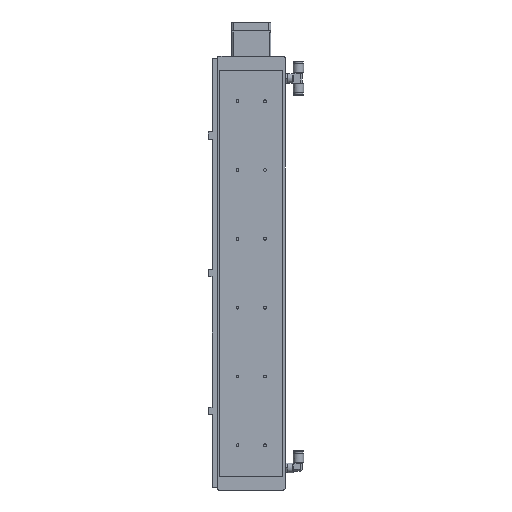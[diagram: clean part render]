
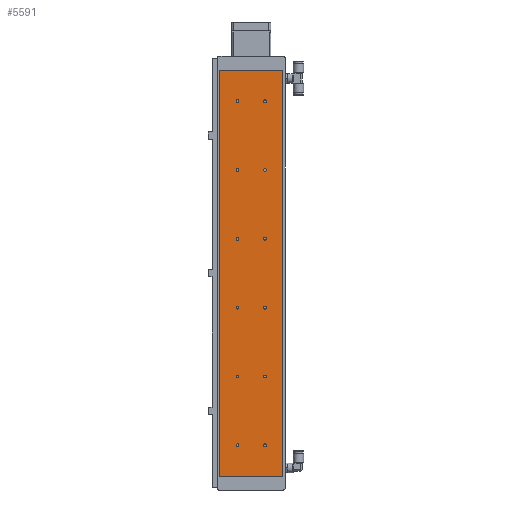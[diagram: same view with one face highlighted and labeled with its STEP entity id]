
A CAD part, front view. The second image highlights one B-rep face of the part: STEP entity #5591.
In plain terms, the highlighted planar face has unit normal (0, -1, 0).
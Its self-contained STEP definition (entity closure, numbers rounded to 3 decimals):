
#4419=CARTESIAN_POINT('',(22.067,0.0,65.));
#4420=VERTEX_POINT('',#4419);
#4421=CARTESIAN_POINT('',(20.,0.0,65.));
#4422=DIRECTION('',(0.0,1.0,0.0));
#4423=DIRECTION('',(1.0,0.0,0.0));
#4424=AXIS2_PLACEMENT_3D('',#4421,#4422,#4423);
#4425=CIRCLE('',#4424,2.067);
#4426=EDGE_CURVE('',#4420,#4420,#4425,.T.);
#4477=CARTESIAN_POINT('',(-17.933,0.0,65.));
#4478=VERTEX_POINT('',#4477);
#4479=CARTESIAN_POINT('',(-20.,0.0,65.));
#4480=DIRECTION('',(0.0,1.0,0.0));
#4481=DIRECTION('',(1.0,0.0,0.0));
#4482=AXIS2_PLACEMENT_3D('',#4479,#4480,#4481);
#4483=CIRCLE('',#4482,2.067);
#4484=EDGE_CURVE('',#4478,#4478,#4483,.T.);
#4535=CARTESIAN_POINT('',(22.067,0.0,565.0));
#4536=VERTEX_POINT('',#4535);
#4537=CARTESIAN_POINT('',(20.,0.0,565.0));
#4538=DIRECTION('',(0.0,1.0,0.0));
#4539=DIRECTION('',(1.0,0.0,0.0));
#4540=AXIS2_PLACEMENT_3D('',#4537,#4538,#4539);
#4541=CIRCLE('',#4540,2.067);
#4542=EDGE_CURVE('',#4536,#4536,#4541,.T.);
#4593=CARTESIAN_POINT('',(-17.933,0.0,565.0));
#4594=VERTEX_POINT('',#4593);
#4595=CARTESIAN_POINT('',(-20.,0.0,565.0));
#4596=DIRECTION('',(0.0,1.0,0.0));
#4597=DIRECTION('',(1.0,0.0,0.0));
#4598=AXIS2_PLACEMENT_3D('',#4595,#4596,#4597);
#4599=CIRCLE('',#4598,2.067);
#4600=EDGE_CURVE('',#4594,#4594,#4599,.T.);
#4651=CARTESIAN_POINT('',(-17.933,0.0,165.0));
#4652=VERTEX_POINT('',#4651);
#4653=CARTESIAN_POINT('',(-20.,0.0,165.0));
#4654=DIRECTION('',(0.0,1.0,0.0));
#4655=DIRECTION('',(1.0,0.0,0.0));
#4656=AXIS2_PLACEMENT_3D('',#4653,#4654,#4655);
#4657=CIRCLE('',#4656,2.067);
#4658=EDGE_CURVE('',#4652,#4652,#4657,.T.);
#4709=CARTESIAN_POINT('',(22.067,0.0,165.0));
#4710=VERTEX_POINT('',#4709);
#4711=CARTESIAN_POINT('',(20.,0.0,165.0));
#4712=DIRECTION('',(0.0,1.0,0.0));
#4713=DIRECTION('',(1.0,0.0,0.0));
#4714=AXIS2_PLACEMENT_3D('',#4711,#4712,#4713);
#4715=CIRCLE('',#4714,2.067);
#4716=EDGE_CURVE('',#4710,#4710,#4715,.T.);
#4767=CARTESIAN_POINT('',(-17.933,0.0,465.0));
#4768=VERTEX_POINT('',#4767);
#4769=CARTESIAN_POINT('',(-20.,0.0,465.0));
#4770=DIRECTION('',(0.0,1.0,0.0));
#4771=DIRECTION('',(1.0,0.0,0.0));
#4772=AXIS2_PLACEMENT_3D('',#4769,#4770,#4771);
#4773=CIRCLE('',#4772,2.067);
#4774=EDGE_CURVE('',#4768,#4768,#4773,.T.);
#4825=CARTESIAN_POINT('',(22.067,0.0,465.0));
#4826=VERTEX_POINT('',#4825);
#4827=CARTESIAN_POINT('',(20.,0.0,465.0));
#4828=DIRECTION('',(0.0,1.0,0.0));
#4829=DIRECTION('',(1.0,0.0,0.0));
#4830=AXIS2_PLACEMENT_3D('',#4827,#4828,#4829);
#4831=CIRCLE('',#4830,2.067);
#4832=EDGE_CURVE('',#4826,#4826,#4831,.T.);
#4883=CARTESIAN_POINT('',(-17.933,0.0,365.0));
#4884=VERTEX_POINT('',#4883);
#4885=CARTESIAN_POINT('',(-20.,0.0,365.0));
#4886=DIRECTION('',(0.0,1.0,0.0));
#4887=DIRECTION('',(1.0,0.0,0.0));
#4888=AXIS2_PLACEMENT_3D('',#4885,#4886,#4887);
#4889=CIRCLE('',#4888,2.067);
#4890=EDGE_CURVE('',#4884,#4884,#4889,.T.);
#4941=CARTESIAN_POINT('',(-17.933,0.0,265.0));
#4942=VERTEX_POINT('',#4941);
#4943=CARTESIAN_POINT('',(-20.0,0.0,265.0));
#4944=DIRECTION('',(0.0,1.0,0.0));
#4945=DIRECTION('',(1.0,0.0,0.0));
#4946=AXIS2_PLACEMENT_3D('',#4943,#4944,#4945);
#4947=CIRCLE('',#4946,2.067);
#4948=EDGE_CURVE('',#4942,#4942,#4947,.T.);
#4999=CARTESIAN_POINT('',(22.067,0.0,265.0));
#5000=VERTEX_POINT('',#4999);
#5001=CARTESIAN_POINT('',(20.,0.0,265.0));
#5002=DIRECTION('',(0.0,1.0,0.0));
#5003=DIRECTION('',(1.0,0.0,0.0));
#5004=AXIS2_PLACEMENT_3D('',#5001,#5002,#5003);
#5005=CIRCLE('',#5004,2.067);
#5006=EDGE_CURVE('',#5000,#5000,#5005,.T.);
#5057=CARTESIAN_POINT('',(22.067,0.0,365.0));
#5058=VERTEX_POINT('',#5057);
#5059=CARTESIAN_POINT('',(20.,0.0,365.0));
#5060=DIRECTION('',(0.0,1.0,0.0));
#5061=DIRECTION('',(1.0,0.0,0.0));
#5062=AXIS2_PLACEMENT_3D('',#5059,#5060,#5061);
#5063=CIRCLE('',#5062,2.067);
#5064=EDGE_CURVE('',#5058,#5058,#5063,.T.);
#5466=CARTESIAN_POINT('',(46.,0.0,20.));
#5467=VERTEX_POINT('',#5466);
#5474=CARTESIAN_POINT('',(-46.,0.0,20.));
#5475=VERTEX_POINT('',#5474);
#5476=CARTESIAN_POINT('',(-46.,0.0,20.));
#5477=DIRECTION('',(1.0,0.0,0.0));
#5478=VECTOR('',#5477,92.);
#5479=LINE('',#5476,#5478);
#5480=EDGE_CURVE('',#5475,#5467,#5479,.T.);
#5497=CARTESIAN_POINT('',(-46.,0.0,610.0));
#5498=VERTEX_POINT('',#5497);
#5505=CARTESIAN_POINT('',(46.,0.0,610.0));
#5506=VERTEX_POINT('',#5505);
#5507=CARTESIAN_POINT('',(46.,0.0,610.0));
#5508=DIRECTION('',(-1.0,0.0,0.0));
#5509=VECTOR('',#5508,92.);
#5510=LINE('',#5507,#5509);
#5511=EDGE_CURVE('',#5506,#5498,#5510,.T.);
#5528=CARTESIAN_POINT('',(-46.,0.0,20.));
#5529=DIRECTION('',(0.0,0.0,1.0));
#5530=VECTOR('',#5529,590.0);
#5531=LINE('',#5528,#5530);
#5532=EDGE_CURVE('',#5475,#5498,#5531,.T.);
#5539=CARTESIAN_POINT('',(46.,0.0,0.0));
#5540=DIRECTION('',(0.0,-1.0,0.0));
#5541=DIRECTION('',(0.0,0.0,-1.0));
#5542=AXIS2_PLACEMENT_3D('',#5539,#5540,#5541);
#5543=PLANE('',#5542);
#5544=ORIENTED_EDGE('',*,*,#5480,.T.);
#5545=CARTESIAN_POINT('',(46.,0.0,20.));
#5546=DIRECTION('',(0.0,0.0,1.0));
#5547=VECTOR('',#5546,590.0);
#5548=LINE('',#5545,#5547);
#5549=EDGE_CURVE('',#5467,#5506,#5548,.T.);
#5550=ORIENTED_EDGE('',*,*,#5549,.T.);
#5551=ORIENTED_EDGE('',*,*,#5511,.T.);
#5552=ORIENTED_EDGE('',*,*,#5532,.F.);
#5553=EDGE_LOOP('',(#5544,#5550,#5551,#5552));
#5554=FACE_OUTER_BOUND('',#5553,.T.);
#5555=ORIENTED_EDGE('',*,*,#4426,.T.);
#5556=EDGE_LOOP('',(#5555));
#5557=FACE_BOUND('',#5556,.T.);
#5558=ORIENTED_EDGE('',*,*,#4484,.T.);
#5559=EDGE_LOOP('',(#5558));
#5560=FACE_BOUND('',#5559,.T.);
#5561=ORIENTED_EDGE('',*,*,#4542,.T.);
#5562=EDGE_LOOP('',(#5561));
#5563=FACE_BOUND('',#5562,.T.);
#5564=ORIENTED_EDGE('',*,*,#4600,.T.);
#5565=EDGE_LOOP('',(#5564));
#5566=FACE_BOUND('',#5565,.T.);
#5567=ORIENTED_EDGE('',*,*,#4658,.T.);
#5568=EDGE_LOOP('',(#5567));
#5569=FACE_BOUND('',#5568,.T.);
#5570=ORIENTED_EDGE('',*,*,#4716,.T.);
#5571=EDGE_LOOP('',(#5570));
#5572=FACE_BOUND('',#5571,.T.);
#5573=ORIENTED_EDGE('',*,*,#4774,.T.);
#5574=EDGE_LOOP('',(#5573));
#5575=FACE_BOUND('',#5574,.T.);
#5576=ORIENTED_EDGE('',*,*,#4832,.T.);
#5577=EDGE_LOOP('',(#5576));
#5578=FACE_BOUND('',#5577,.T.);
#5579=ORIENTED_EDGE('',*,*,#4890,.T.);
#5580=EDGE_LOOP('',(#5579));
#5581=FACE_BOUND('',#5580,.T.);
#5582=ORIENTED_EDGE('',*,*,#4948,.T.);
#5583=EDGE_LOOP('',(#5582));
#5584=FACE_BOUND('',#5583,.T.);
#5585=ORIENTED_EDGE('',*,*,#5006,.T.);
#5586=EDGE_LOOP('',(#5585));
#5587=FACE_BOUND('',#5586,.T.);
#5588=ORIENTED_EDGE('',*,*,#5064,.T.);
#5589=EDGE_LOOP('',(#5588));
#5590=FACE_BOUND('',#5589,.T.);
#5591=ADVANCED_FACE('',(#5554,#5557,#5560,#5563,#5566,#5569,#5572,#5575,#5578,#5581,#5584,#5587,#5590),#5543,.T.);
